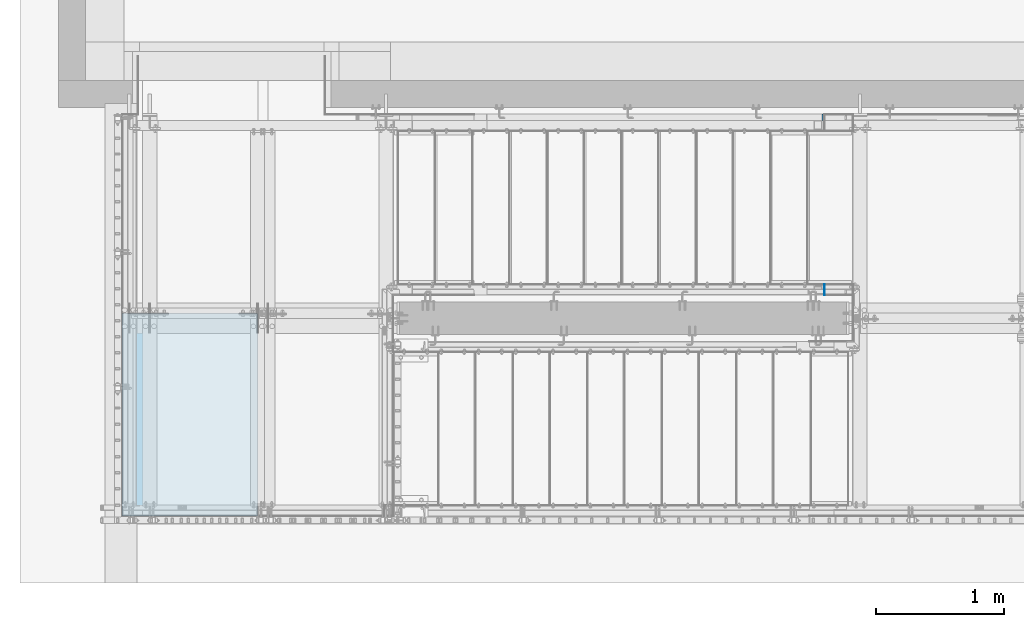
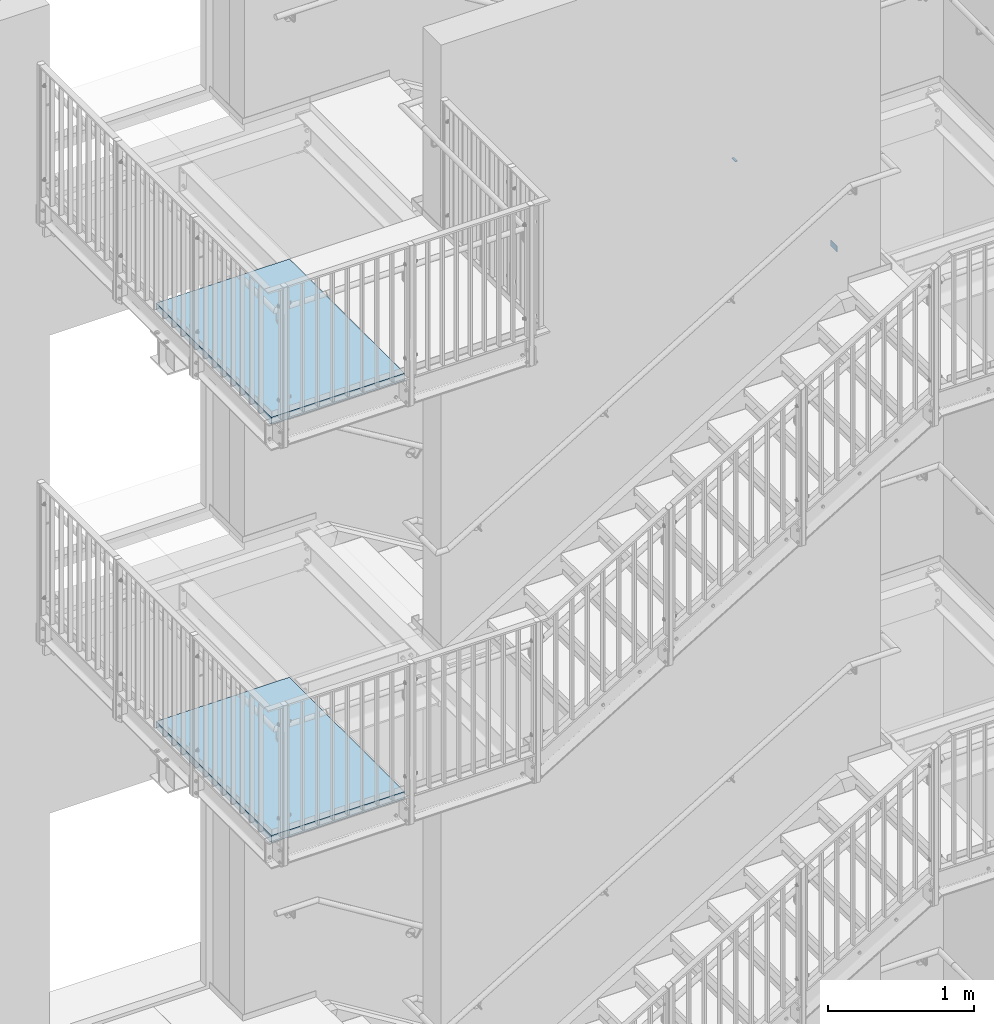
# One storey, part 48 of 410: 2 beams, 2 plates.
"""IFC2X3 building model written with IfcOpenShell, lengths in millimetres."""

from ifc_helpers import new_model, entity, si_unit, converted_unit, frame, origin, origin_with_axes, origin_2d, place, context, project, spatial, polyline, rectangle, outline, extrude, material, layer, layer_set, element, save


model = new_model("IFC2X3")

# Units and contexts
model_context = context("Model", 3, precision=1e-09, world=origin_with_axes())
ifc_project = project(units=[si_unit("LENGTHUNIT", "METRE", prefix="MILLI"), si_unit("AREAUNIT", "SQUARE_METRE"), si_unit("VOLUMEUNIT", "CUBIC_METRE"), converted_unit("PLANEANGLEUNIT", "DEGREE", entity("IfcPlaneAngleMeasure", 0.01745329), si_unit("PLANEANGLEUNIT", "RADIAN"), dimensions=[0, 0, 0, 0, 0, 0, 0])], contexts=[model_context])

# Site, building, storey
site_placement = place(None, origin_with_axes())
site = spatial("IfcSite", under=ifc_project, at=site_placement, Name="mKR Teilneubau & Sanierung BA1 - Ostfildern", CompositionType="ELEMENT")
building_placement = place(site_placement, origin_with_axes())
building = spatial("IfcBuilding", under=site, at=building_placement, Name="Struktur 1", CompositionType="ELEMENT")
storey_placement = place(building_placement, origin_with_axes())
storey = spatial("IfcBuildingStorey", under=building, at=storey_placement, Name="Default Storey", CompositionType="ELEMENT", Elevation=0.0)

# Beams
ifc_material = material(Name="S235JR")
beam_1_placement = place(None, frame((1605.002468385, 17245.999999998, 5950.0), z_axis=(0.0, 1.0, 0.0), x_axis=(-1.0, 0.0, 0.0)))
element("IfcBeam", 1, at=beam_1_placement, inside=storey, material=ifc_material, Name="-", ObjectType="-", context=model_context, shape_type="SweptSolid", body=[
    extrude(rectangle(XDim=4.0, YDim=50.0, at=origin_2d()), origin(), (0.0, 0.0, -1.0), 86.0),
])
beam_2_placement = place(None, frame((1584.427671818, 18544.999999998, 5862.500536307), z_axis=(-1.0, 0.0, 4.35e-06), x_axis=(4.35e-06, 0.0, 1.0)))
element("IfcBeam", 2, at=beam_2_placement, inside=storey, material=ifc_material, Name="-", ObjectType="-", context=model_context, shape_type="SweptSolid", body=[
    extrude(rectangle(XDim=5.0, YDim=50.0, at=origin_2d()), origin(), (0.0, 0.0, -1.0), 18.574785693),
])

# Plates
ifc_layer = layer(ifc_material, 60.0)
ifc_layer_set = layer_set([ifc_layer], Name="S235JR")
for number, where, z_axis, x_axis, name in (
    (3, (-2712.49926585, 17229.999999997, 3940.0), (0.0, 0.0, 1.0), (1.0, 0.0, 0.0), "Grating"),
    (4, (-2712.49926585, 17229.999999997, 7440.0), (0.0, 0.0, 1.0), (1.0, 0.0, 0.0), "Grating"),
):
    element("IfcPlate", number, at=place(None, frame(where, z_axis=z_axis, x_axis=x_axis)), inside=storey, material=ifc_layer_set, Name=name, ObjectType="Grating", context=model_context, shape_type="SweptSolid", body=[
        extrude(outline(polyline([(-98.49926585, -1789.999999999), (-98.49926585, -211.999999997), (-1152.49926585, -211.999999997), (-1152.49926585, -1789.999999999), (-98.49926585, -1789.999999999)])), origin_with_axes(), (0.0, 0.0, 1.0), 60.0),
    ])

save(model, "model.ifc")
